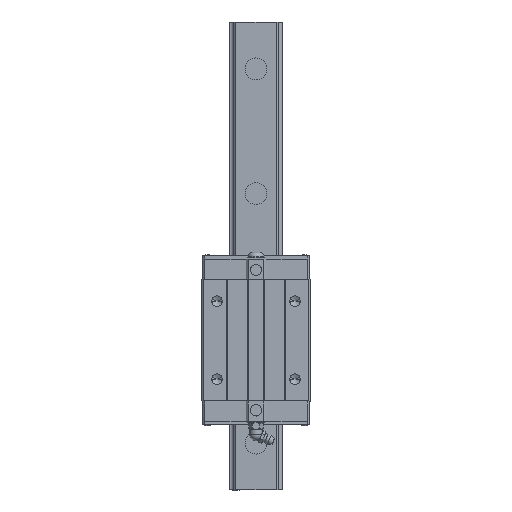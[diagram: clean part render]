
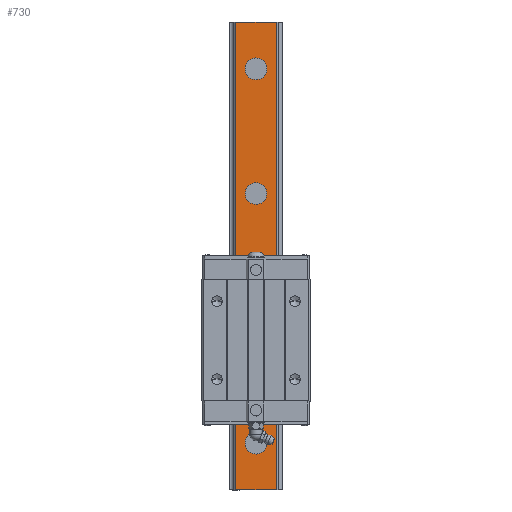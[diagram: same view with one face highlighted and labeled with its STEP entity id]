
A CAD part, top view. The second image highlights one B-rep face of the part: STEP entity #730.
In plain terms, the highlighted planar face has unit normal (0, 0, 1).
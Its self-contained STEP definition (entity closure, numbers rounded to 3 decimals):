
#730=ADVANCED_FACE('',(#1991,#1992,#1993,#1994,#1995),#1996,.T.);
#1991=FACE_BOUND('',#3293,.T.);
#1992=FACE_BOUND('',#3294,.T.);
#1993=FACE_BOUND('',#3295,.T.);
#1994=FACE_BOUND('',#3296,.T.);
#1995=FACE_OUTER_BOUND('',#3297,.T.);
#1996=PLANE('',#3298);
#3293=EDGE_LOOP('',(#8486,#8487));
#3294=EDGE_LOOP('',(#8488,#8489));
#3295=EDGE_LOOP('',(#8490,#8491));
#3296=EDGE_LOOP('',(#8492,#8493));
#3297=EDGE_LOOP('',(#8494,#8495,#8496,#8497));
#3298=AXIS2_PLACEMENT_3D('',#8498,#8499,#8500);
#8486=ORIENTED_EDGE('',*,*,#10083,.T.);
#8487=ORIENTED_EDGE('',*,*,#10375,.T.);
#8488=ORIENTED_EDGE('',*,*,#10075,.T.);
#8489=ORIENTED_EDGE('',*,*,#10378,.T.);
#8490=ORIENTED_EDGE('',*,*,#10067,.T.);
#8491=ORIENTED_EDGE('',*,*,#10381,.T.);
#8492=ORIENTED_EDGE('',*,*,#10059,.T.);
#8493=ORIENTED_EDGE('',*,*,#10384,.T.);
#8494=ORIENTED_EDGE('',*,*,#10355,.T.);
#8495=ORIENTED_EDGE('',*,*,#10408,.F.);
#8496=ORIENTED_EDGE('',*,*,#10249,.T.);
#8497=ORIENTED_EDGE('',*,*,#10407,.T.);
#8498=CARTESIAN_POINT('',(-13.042,300.0,27.5));
#8499=DIRECTION('',(0.0,0.0,1.0));
#8500=DIRECTION('',(-1.0,0.0,0.0));
#10059=EDGE_CURVE('',#12656,#12653,#12657,.T.);
#10067=EDGE_CURVE('',#12672,#12669,#12673,.T.);
#10075=EDGE_CURVE('',#12688,#12685,#12689,.T.);
#10083=EDGE_CURVE('',#12704,#12701,#12705,.T.);
#10249=EDGE_CURVE('',#12986,#12984,#12987,.T.);
#10355=EDGE_CURVE('',#13177,#13175,#13178,.T.);
#10375=EDGE_CURVE('',#12701,#12704,#13216,.T.);
#10378=EDGE_CURVE('',#12685,#12688,#13219,.T.);
#10381=EDGE_CURVE('',#12669,#12672,#13222,.T.);
#10384=EDGE_CURVE('',#12653,#12656,#13225,.T.);
#10407=EDGE_CURVE('',#12984,#13177,#13248,.T.);
#10408=EDGE_CURVE('',#12986,#13175,#13249,.T.);
#12653=VERTEX_POINT('',#18406);
#12656=VERTEX_POINT('',#18410);
#12657=CIRCLE('',#18411,7.0);
#12669=VERTEX_POINT('',#18426);
#12672=VERTEX_POINT('',#18430);
#12673=CIRCLE('',#18431,7.0);
#12685=VERTEX_POINT('',#18446);
#12688=VERTEX_POINT('',#18450);
#12689=CIRCLE('',#18451,7.0);
#12701=VERTEX_POINT('',#18466);
#12704=VERTEX_POINT('',#18470);
#12705=CIRCLE('',#18471,7.0);
#12984=VERTEX_POINT('',#18884);
#12986=VERTEX_POINT('',#18887);
#12987=LINE('',#18888,#18889);
#13175=VERTEX_POINT('',#19163);
#13177=VERTEX_POINT('',#19166);
#13178=LINE('',#19167,#19168);
#13216=CIRCLE('',#19216,7.0);
#13219=CIRCLE('',#19219,7.0);
#13222=CIRCLE('',#19222,7.0);
#13225=CIRCLE('',#19225,7.0);
#13248=LINE('',#19268,#19269);
#13249=LINE('',#19270,#19271);
#18406=CARTESIAN_POINT('',(7.0,30.0,27.5));
#18410=CARTESIAN_POINT('',(-7.0,30.0,27.5));
#18411=AXIS2_PLACEMENT_3D('',#21025,#21026,#21027);
#18426=CARTESIAN_POINT('',(7.0,110.0,27.5));
#18430=CARTESIAN_POINT('',(-7.0,110.0,27.5));
#18431=AXIS2_PLACEMENT_3D('',#21041,#21042,#21043);
#18446=CARTESIAN_POINT('',(7.0,190.0,27.5));
#18450=CARTESIAN_POINT('',(-7.0,190.0,27.5));
#18451=AXIS2_PLACEMENT_3D('',#21057,#21058,#21059);
#18466=CARTESIAN_POINT('',(7.0,270.0,27.5));
#18470=CARTESIAN_POINT('',(-7.0,270.0,27.5));
#18471=AXIS2_PLACEMENT_3D('',#21073,#21074,#21075);
#18884=CARTESIAN_POINT('',(-13.042,300.0,27.5));
#18887=CARTESIAN_POINT('',(13.042,300.0,27.5));
#18888=CARTESIAN_POINT('',(13.042,300.0,27.5));
#18889=VECTOR('',#21301,1.0);
#19163=CARTESIAN_POINT('',(13.042,0.0,27.5));
#19166=CARTESIAN_POINT('',(-13.042,0.0,27.5));
#19167=CARTESIAN_POINT('',(13.042,0.0,27.5));
#19168=VECTOR('',#21443,1.0);
#19216=AXIS2_PLACEMENT_3D('',#21481,#21482,#21483);
#19219=AXIS2_PLACEMENT_3D('',#21490,#21491,#21492);
#19222=AXIS2_PLACEMENT_3D('',#21499,#21500,#21501);
#19225=AXIS2_PLACEMENT_3D('',#21508,#21509,#21510);
#19268=CARTESIAN_POINT('',(-13.042,300.0,27.5));
#19269=VECTOR('',#21537,1.0);
#19270=CARTESIAN_POINT('',(13.042,300.0,27.5));
#19271=VECTOR('',#21538,1.0);
#21025=CARTESIAN_POINT('',(0.0,30.0,27.5));
#21026=DIRECTION('',(0.0,0.0,-1.0));
#21027=DIRECTION('',(1.0,0.0,0.0));
#21041=CARTESIAN_POINT('',(0.0,110.0,27.5));
#21042=DIRECTION('',(0.0,0.0,-1.0));
#21043=DIRECTION('',(1.0,0.0,0.0));
#21057=CARTESIAN_POINT('',(0.0,190.0,27.5));
#21058=DIRECTION('',(0.0,0.0,-1.0));
#21059=DIRECTION('',(1.0,0.0,0.0));
#21073=CARTESIAN_POINT('',(0.0,270.0,27.5));
#21074=DIRECTION('',(0.0,0.0,-1.0));
#21075=DIRECTION('',(1.0,0.0,0.0));
#21301=DIRECTION('',(-1.0,0.0,0.0));
#21443=DIRECTION('',(1.0,0.0,0.0));
#21481=CARTESIAN_POINT('',(0.0,270.0,27.5));
#21482=DIRECTION('',(0.0,0.0,-1.0));
#21483=DIRECTION('',(1.0,0.0,0.0));
#21490=CARTESIAN_POINT('',(0.0,190.0,27.5));
#21491=DIRECTION('',(0.0,0.0,-1.0));
#21492=DIRECTION('',(1.0,0.0,0.0));
#21499=CARTESIAN_POINT('',(0.0,110.0,27.5));
#21500=DIRECTION('',(0.0,0.0,-1.0));
#21501=DIRECTION('',(1.0,0.0,0.0));
#21508=CARTESIAN_POINT('',(0.0,30.0,27.5));
#21509=DIRECTION('',(0.0,0.0,-1.0));
#21510=DIRECTION('',(1.0,0.0,0.0));
#21537=DIRECTION('',(0.0,-1.0,0.0));
#21538=DIRECTION('',(0.0,-1.0,0.0));
